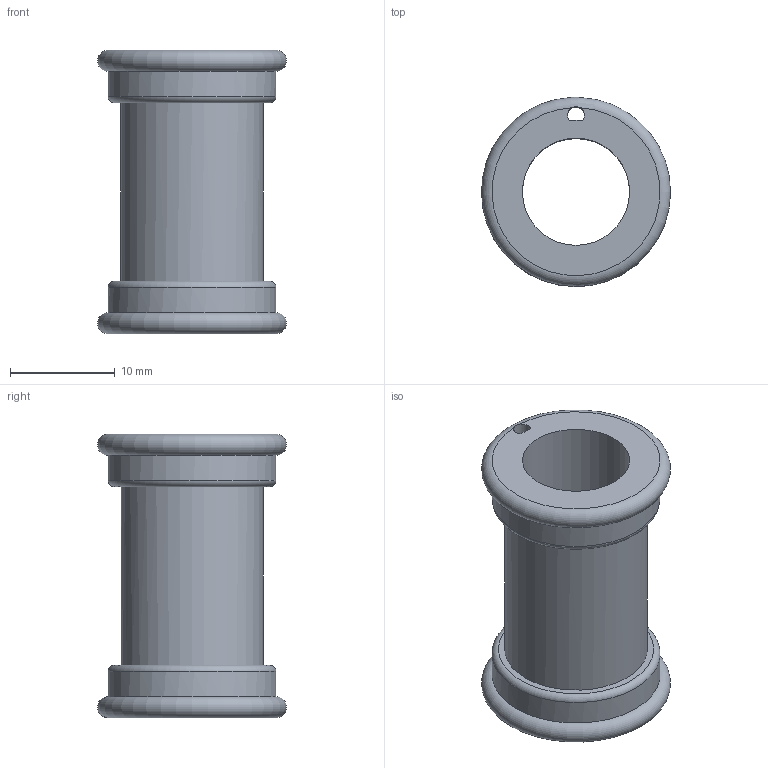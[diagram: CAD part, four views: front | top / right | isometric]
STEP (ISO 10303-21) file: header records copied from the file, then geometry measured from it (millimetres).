
FILE_DESCRIPTION(/* description */ (''),/* implementation_level */ '2;1');
FILE_NAME(/* name */ 'SpoleForm_1C_Lille.step',/* time_stamp */ '2026-06-21T17:22:20+02:00',/* author */ (''),/* organization */ (''),/* preprocessor_version */ 'ST-DEVELOPER v20.1',/* originating_system */ 'Autodesk Translation Framework v15.8.0.0',/* authorisation */ '');
FILE_SCHEMA (('AUTOMOTIVE_DESIGN { 1 0 10303 214 3 1 1 }'));
Length unit declared in the file: millimetre
Products named in the file (3): 2026-06-11-08-03-41-367; 2026-06-11-09-52-00-840; 2026-06-11-10-12-27-439
Assembly tree (2 placements, depth 2):
  2026-06-11-08-03-41-367
    2026-06-11-09-52-00-840
    2026-06-11-10-12-27-439
Bounding box: 18 x 18 x 27 mm (x, y, z)
Volume: 2414.2 mm3; surface area: 2936.4 mm2
Topology: 2 solids, 2 shells, 22 faces, 60 edges, 40 vertices
Faces by surface type: cylinder 10, plane 7, torus 5
Full cylindrical faces by diameter (mm): 10.2 x2, 12 x2, 13.6 x1
Entity records: 922 total; most frequent: CARTESIAN_POINT 212, DIRECTION 147, ORIENTED_EDGE 120, AXIS2_PLACEMENT_3D 67, EDGE_CURVE 60, VERTEX_POINT 40, CIRCLE 39, EDGE_LOOP 28
